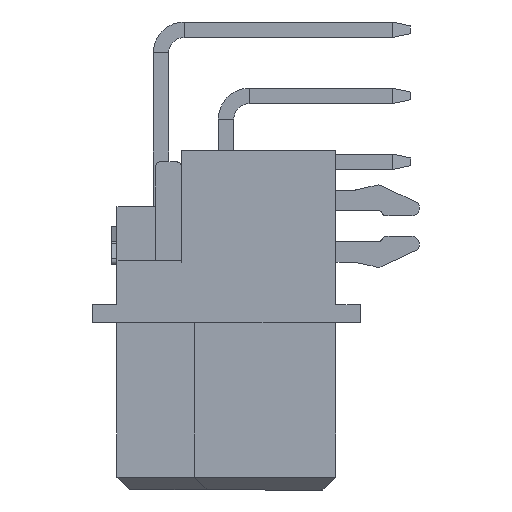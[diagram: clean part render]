
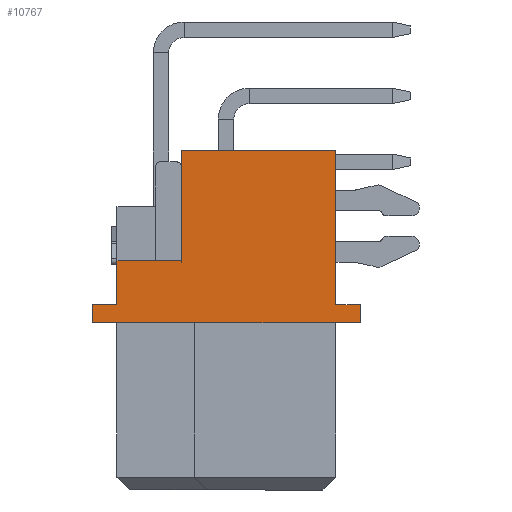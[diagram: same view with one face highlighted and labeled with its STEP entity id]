
A CAD part, left-side view. The second image highlights one B-rep face of the part: STEP entity #10767.
In plain terms, the highlighted planar face has unit normal (-1, 0, 0).
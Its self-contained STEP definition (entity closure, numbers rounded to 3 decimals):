
#9851 = EDGE_CURVE ( 'NONE', #24713, #24666, #41813, .T. ) ;
#9856 = EDGE_CURVE ( 'NONE', #24728, #24729, #41828, .T. ) ;
#9857 = EDGE_CURVE ( 'NONE', #24713, #24730, #41818, .T. ) ;
#9858 = EDGE_CURVE ( 'NONE', #24726, #24724, #41834, .T. ) ;
#9859 = EDGE_CURVE ( 'NONE', #24729, #24684, #41823, .T. ) ;
#9860 = EDGE_CURVE ( 'NONE', #24732, #24731, #41829, .T. ) ;
#9861 = EDGE_CURVE ( 'NONE', #24724, #24728, #41835, .T. ) ;
#9863 = EDGE_CURVE ( 'NONE', #24731, #24726, #41849, .T. ) ;
#9865 = EDGE_CURVE ( 'NONE', #24730, #24732, #41845, .T. ) ;
#10767 = ADVANCED_FACE ( 'NONE', ( #45467 ), #45468, .F. ) ;
#14339 = ORIENTED_EDGE ( 'NONE', *, *, #9859, .F. ) ;
#14341 = ORIENTED_EDGE ( 'NONE', *, *, #9856, .F. ) ;
#14342 = ORIENTED_EDGE ( 'NONE', *, *, #9861, .F. ) ;
#14344 = ORIENTED_EDGE ( 'NONE', *, *, #9858, .F. ) ;
#14346 = ORIENTED_EDGE ( 'NONE', *, *, #9863, .F. ) ;
#14348 = ORIENTED_EDGE ( 'NONE', *, *, #9860, .F. ) ;
#14350 = ORIENTED_EDGE ( 'NONE', *, *, #9865, .F. ) ;
#14352 = ORIENTED_EDGE ( 'NONE', *, *, #9857, .F. ) ;
#14354 = ORIENTED_EDGE ( 'NONE', *, *, #9851, .T. ) ;
#14355 = ORIENTED_EDGE ( 'NONE', *, *, #62939, .T. ) ;
#15784 = EDGE_LOOP ( 'NONE', ( #14339, #14341, #14342, #14344, #14346, #14348, #14350, #14352, #14354, #14355 ) ) ;
#23878 = CARTESIAN_POINT ( 'NONE',  ( -32.722, -1.524, -0.18 ) ) ;
#23885 = LINE ( 'NONE', #23878, #24585 ) ;
#23899 = DIRECTION ( 'NONE',  ( 0., 1., 0. ) ) ;
#24585 = VECTOR ( 'NONE', #23899, 1000. ) ;
#24666 = VERTEX_POINT ( 'NONE', #57912 ) ;
#24684 = VERTEX_POINT ( 'NONE', #57924 ) ;
#24713 = VERTEX_POINT ( 'NONE', #57943 ) ;
#24724 = VERTEX_POINT ( 'NONE', #57954 ) ;
#24726 = VERTEX_POINT ( 'NONE', #57956 ) ;
#24728 = VERTEX_POINT ( 'NONE', #57958 ) ;
#24729 = VERTEX_POINT ( 'NONE', #57959 ) ;
#24730 = VERTEX_POINT ( 'NONE', #57960 ) ;
#24731 = VERTEX_POINT ( 'NONE', #57961 ) ;
#24732 = VERTEX_POINT ( 'NONE', #57962 ) ;
#41813 = LINE ( 'NONE', #41815, #52310 ) ;
#41815 = CARTESIAN_POINT ( 'NONE',  ( -32.722, 4.073, 4.11 ) ) ;
#41816 = DIRECTION ( 'NONE',  ( 0., 0., -1. ) ) ;
#41818 = LINE ( 'NONE', #41832, #52314 ) ;
#41823 = LINE ( 'NONE', #41838, #52316 ) ;
#41828 = LINE ( 'NONE', #41830, #52315 ) ;
#41829 = LINE ( 'NONE', #41841, #52318 ) ;
#41830 = CARTESIAN_POINT ( 'NONE',  ( -32.722, 2.323, -1.89 ) ) ;
#41831 = DIRECTION ( 'NONE',  ( 0., -1., 0. ) ) ;
#41832 = CARTESIAN_POINT ( 'NONE',  ( -32.722, 4.073, 4.11 ) ) ;
#41833 = DIRECTION ( 'NONE',  ( 0., -1., 0. ) ) ;
#41834 = LINE ( 'NONE', #41836, #52317 ) ;
#41835 = LINE ( 'NONE', #41844, #52319 ) ;
#41836 = CARTESIAN_POINT ( 'NONE',  ( -32.722, 2.323, -2.59 ) ) ;
#41837 = DIRECTION ( 'NONE',  ( 0., 1., 0. ) ) ;
#41838 = CARTESIAN_POINT ( 'NONE',  ( -32.722, 6.573, -0.18 ) ) ;
#41840 = DIRECTION ( 'NONE',  ( 0., 0., 1. ) ) ;
#41841 = CARTESIAN_POINT ( 'NONE',  ( -32.722, 2.323, -1.89 ) ) ;
#41843 = DIRECTION ( 'NONE',  ( 0., -1., 0. ) ) ;
#41844 = CARTESIAN_POINT ( 'NONE',  ( -32.722, 7.523, -2.24 ) ) ;
#41845 = LINE ( 'NONE', #41856, #52323 ) ;
#41846 = DIRECTION ( 'NONE',  ( 0., 0., 1. ) ) ;
#41849 = LINE ( 'NONE', #41851, #52322 ) ;
#41851 = CARTESIAN_POINT ( 'NONE',  ( -32.722, -2.877, -2.24 ) ) ;
#41852 = DIRECTION ( 'NONE',  ( 0., 0., -1. ) ) ;
#41856 = CARTESIAN_POINT ( 'NONE',  ( -32.722, -1.927, 4.11 ) ) ;
#41857 = DIRECTION ( 'NONE',  ( 0., 0., -1. ) ) ;
#43766 = AXIS2_PLACEMENT_3D ( 'NONE', #45459, #45470, #45471 ) ;
#45459 = CARTESIAN_POINT ( 'NONE',  ( -32.722, 7.731, 4.244 ) ) ;
#45467 = FACE_OUTER_BOUND ( 'NONE', #15784, .T. ) ;
#45468 = PLANE ( 'NONE',  #43766 ) ;
#45470 = DIRECTION ( 'NONE',  ( 1., 0., 0. ) ) ;
#45471 = DIRECTION ( 'NONE',  ( 0., -1., 0. ) ) ;
#52310 = VECTOR ( 'NONE', #41816, 1000. ) ;
#52314 = VECTOR ( 'NONE', #41833, 1000. ) ;
#52315 = VECTOR ( 'NONE', #41831, 1000. ) ;
#52316 = VECTOR ( 'NONE', #41840, 1000. ) ;
#52317 = VECTOR ( 'NONE', #41837, 1000. ) ;
#52318 = VECTOR ( 'NONE', #41843, 1000. ) ;
#52319 = VECTOR ( 'NONE', #41846, 1000. ) ;
#52322 = VECTOR ( 'NONE', #41852, 1000. ) ;
#52323 = VECTOR ( 'NONE', #41857, 1000. ) ;
#57912 = CARTESIAN_POINT ( 'NONE',  ( -32.722, 4.073, -0.18 ) ) ;
#57924 = CARTESIAN_POINT ( 'NONE',  ( -32.722, 6.573, -0.18 ) ) ;
#57943 = CARTESIAN_POINT ( 'NONE',  ( -32.722, 4.073, 4.11 ) ) ;
#57954 = CARTESIAN_POINT ( 'NONE',  ( -32.722, 7.523, -2.59 ) ) ;
#57956 = CARTESIAN_POINT ( 'NONE',  ( -32.722, -2.877, -2.59 ) ) ;
#57958 = CARTESIAN_POINT ( 'NONE',  ( -32.722, 7.523, -1.89 ) ) ;
#57959 = CARTESIAN_POINT ( 'NONE',  ( -32.722, 6.573, -1.89 ) ) ;
#57960 = CARTESIAN_POINT ( 'NONE',  ( -32.722, -1.927, 4.11 ) ) ;
#57961 = CARTESIAN_POINT ( 'NONE',  ( -32.722, -2.877, -1.89 ) ) ;
#57962 = CARTESIAN_POINT ( 'NONE',  ( -32.722, -1.927, -1.89 ) ) ;
#62939 = EDGE_CURVE ( 'NONE', #24666, #24684, #23885, .T. ) ;
